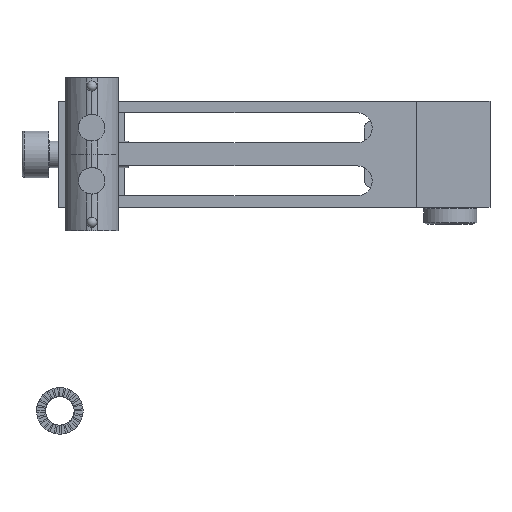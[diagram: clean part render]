
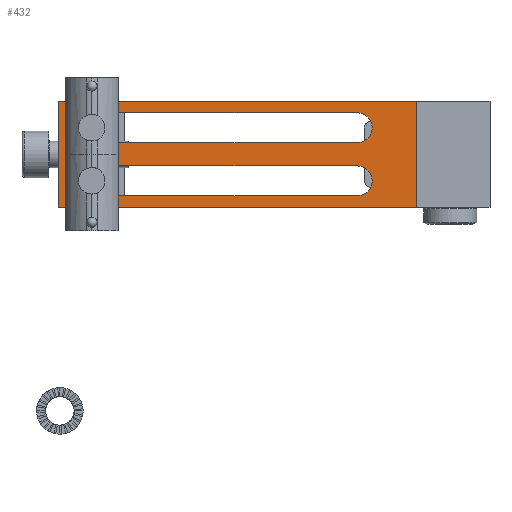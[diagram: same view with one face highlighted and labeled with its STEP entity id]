
A CAD part, top view. The second image highlights one B-rep face of the part: STEP entity #432.
In plain terms, the highlighted planar face has unit normal (0, 0, 1).
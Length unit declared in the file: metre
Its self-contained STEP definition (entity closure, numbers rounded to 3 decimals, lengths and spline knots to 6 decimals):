
#432 = ADVANCED_FACE( '', ( #1089, #1090, #1091 ), #1092, .T. );
#1089 = FACE_BOUND( '', #2130, .T. );
#1090 = FACE_BOUND( '', #2131, .T. );
#1091 = FACE_OUTER_BOUND( '', #2132, .T. );
#1092 = PLANE( '', #2133 );
#2130 = EDGE_LOOP( '', ( #3386, #3387, #3388, #3389 ) );
#2131 = EDGE_LOOP( '', ( #3390, #3391, #3392, #3393 ) );
#2132 = EDGE_LOOP( '', ( #3394, #3395, #3396, #3397 ) );
#2133 = AXIS2_PLACEMENT_3D( '', #3398, #3399, #3400 );
#3386 = ORIENTED_EDGE( '', *, *, #7358, .F. );
#3387 = ORIENTED_EDGE( '', *, *, #7370, .F. );
#3388 = ORIENTED_EDGE( '', *, *, #7371, .F. );
#3389 = ORIENTED_EDGE( '', *, *, #7372, .F. );
#3390 = ORIENTED_EDGE( '', *, *, #7361, .F. );
#3391 = ORIENTED_EDGE( '', *, *, #7341, .F. );
#3392 = ORIENTED_EDGE( '', *, *, #7373, .F. );
#3393 = ORIENTED_EDGE( '', *, *, #7374, .F. );
#3394 = ORIENTED_EDGE( '', *, *, #7363, .T. );
#3395 = ORIENTED_EDGE( '', *, *, #7347, .T. );
#3396 = ORIENTED_EDGE( '', *, *, #7366, .T. );
#3397 = ORIENTED_EDGE( '', *, *, #7331, .T. );
#3398 = CARTESIAN_POINT( '', ( -0.065149, -0.069, 0.005 ) );
#3399 = DIRECTION( '', ( 0., 0., 1. ) );
#3400 = DIRECTION( '', ( 1., 0., 0. ) );
#7331 = EDGE_CURVE( '', #8748, #8749, #8750, .T. );
#7341 = EDGE_CURVE( '', #8767, #8769, #8770, .T. );
#7347 = EDGE_CURVE( '', #8774, #8779, #8781, .T. );
#7358 = EDGE_CURVE( '', #8800, #8801, #8802, .T. );
#7361 = EDGE_CURVE( '', #8769, #8805, #8806, .T. );
#7363 = EDGE_CURVE( '', #8749, #8774, #8808, .T. );
#7366 = EDGE_CURVE( '', #8779, #8748, #8812, .T. );
#7370 = EDGE_CURVE( '', #8817, #8800, #8818, .T. );
#7371 = EDGE_CURVE( '', #8819, #8817, #8820, .T. );
#7372 = EDGE_CURVE( '', #8801, #8819, #8821, .T. );
#7373 = EDGE_CURVE( '', #8822, #8767, #8823, .T. );
#7374 = EDGE_CURVE( '', #8805, #8822, #8824, .T. );
#8748 = VERTEX_POINT( '', #11019 );
#8749 = VERTEX_POINT( '', #11020 );
#8750 = LINE( '', #11021, #11022 );
#8767 = VERTEX_POINT( '', #11042 );
#8769 = VERTEX_POINT( '', #11045 );
#8770 = LINE( '', #11046, #11047 );
#8774 = VERTEX_POINT( '', #11053 );
#8779 = VERTEX_POINT( '', #11060 );
#8781 = LINE( '', #11063, #11064 );
#8800 = VERTEX_POINT( '', #11089 );
#8801 = VERTEX_POINT( '', #11090 );
#8802 = CIRCLE( '', #11091, 0.00225 );
#8805 = VERTEX_POINT( '', #11096 );
#8806 = CIRCLE( '', #11097, 0.00225 );
#8808 = LINE( '', #11100, #11101 );
#8812 = LINE( '', #11107, #11108 );
#8817 = VERTEX_POINT( '', #11116 );
#8818 = LINE( '', #11117, #11118 );
#8819 = VERTEX_POINT( '', #11119 );
#8820 = CIRCLE( '', #11120, 0.00225 );
#8821 = LINE( '', #11121, #11122 );
#8822 = VERTEX_POINT( '', #11123 );
#8823 = CIRCLE( '', #11124, 0.00225 );
#8824 = LINE( '', #11125, #11126 );
#11019 = CARTESIAN_POINT( '', ( -0.054, 0.008, 0.005 ) );
#11020 = CARTESIAN_POINT( '', ( -0.054, -0.008, 0.005 ) );
#11021 = CARTESIAN_POINT( '', ( -0.054, 0.008, 0.005 ) );
#11022 = VECTOR( '', #14206, 1. );
#11042 = CARTESIAN_POINT( '', ( -0.009, -0.00175, 0.005 ) );
#11045 = CARTESIAN_POINT( '', ( -0.049, -0.00175, 0.005 ) );
#11046 = CARTESIAN_POINT( '', ( -0.009, -0.00175, 0.005 ) );
#11047 = VECTOR( '', #14226, 1. );
#11053 = CARTESIAN_POINT( '', ( 0., -0.008, 0.005 ) );
#11060 = CARTESIAN_POINT( '', ( 0., 0.008, 0.005 ) );
#11063 = CARTESIAN_POINT( '', ( 0., -0.069, 0.005 ) );
#11064 = VECTOR( '', #14232, 1. );
#11089 = CARTESIAN_POINT( '', ( -0.049, 0.00625, 0.005 ) );
#11090 = CARTESIAN_POINT( '', ( -0.049, 0.00175, 0.005 ) );
#11091 = AXIS2_PLACEMENT_3D( '', #14251, #14252, #14253 );
#11096 = CARTESIAN_POINT( '', ( -0.049, -0.00625, 0.005 ) );
#11097 = AXIS2_PLACEMENT_3D( '', #14256, #14257, #14258 );
#11100 = CARTESIAN_POINT( '', ( -0.054, -0.008, 0.005 ) );
#11101 = VECTOR( '', #14260, 1. );
#11107 = CARTESIAN_POINT( '', ( 0.011, 0.008, 0.005 ) );
#11108 = VECTOR( '', #14263, 1. );
#11116 = CARTESIAN_POINT( '', ( -0.009, 0.00625, 0.005 ) );
#11117 = CARTESIAN_POINT( '', ( -0.009, 0.00625, 0.005 ) );
#11118 = VECTOR( '', #14267, 1. );
#11119 = CARTESIAN_POINT( '', ( -0.009, 0.00175, 0.005 ) );
#11120 = AXIS2_PLACEMENT_3D( '', #14268, #14269, #14270 );
#11121 = CARTESIAN_POINT( '', ( -0.049, 0.00175, 0.005 ) );
#11122 = VECTOR( '', #14271, 1. );
#11123 = CARTESIAN_POINT( '', ( -0.009, -0.00625, 0.005 ) );
#11124 = AXIS2_PLACEMENT_3D( '', #14272, #14273, #14274 );
#11125 = CARTESIAN_POINT( '', ( -0.049, -0.00625, 0.005 ) );
#11126 = VECTOR( '', #14275, 1. );
#14206 = DIRECTION( '', ( 0., -1., 0. ) );
#14226 = DIRECTION( '', ( -1., 0., 0. ) );
#14232 = DIRECTION( '', ( 0., 1., 0. ) );
#14251 = CARTESIAN_POINT( '', ( -0.049, 0.004, 0.005 ) );
#14252 = DIRECTION( '', ( 0., 0., 1. ) );
#14253 = DIRECTION( '', ( 0., -1., 0. ) );
#14256 = CARTESIAN_POINT( '', ( -0.049, -0.004, 0.005 ) );
#14257 = DIRECTION( '', ( 0., 0., 1. ) );
#14258 = DIRECTION( '', ( 0., -1., 0. ) );
#14260 = DIRECTION( '', ( 1., 0., 0. ) );
#14263 = DIRECTION( '', ( -1., 0., 0. ) );
#14267 = DIRECTION( '', ( -1., 0., 0. ) );
#14268 = CARTESIAN_POINT( '', ( -0.009, 0.004, 0.005 ) );
#14269 = DIRECTION( '', ( 0., 0., 1. ) );
#14270 = DIRECTION( '', ( 0., -1., 0. ) );
#14271 = DIRECTION( '', ( 1., 0., 0. ) );
#14272 = CARTESIAN_POINT( '', ( -0.009, -0.004, 0.005 ) );
#14273 = DIRECTION( '', ( 0., 0., 1. ) );
#14274 = DIRECTION( '', ( 0., -1., 0. ) );
#14275 = DIRECTION( '', ( 1., 0., 0. ) );
